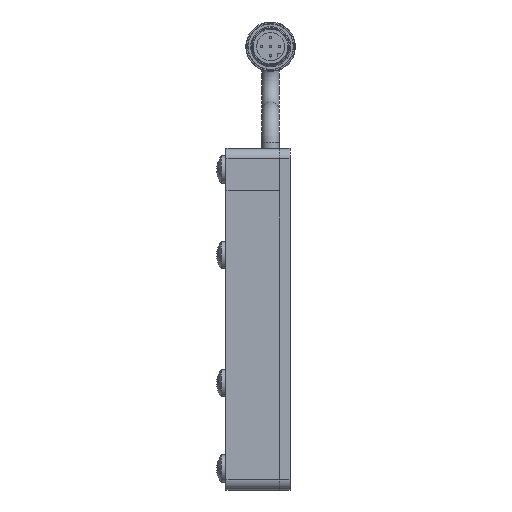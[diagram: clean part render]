
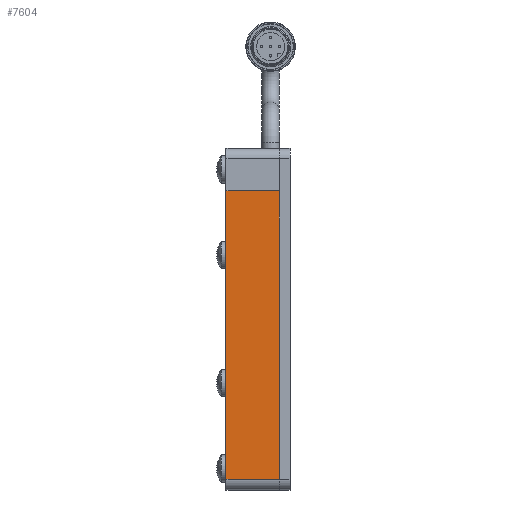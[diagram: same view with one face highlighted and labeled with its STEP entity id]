
A CAD part, left-side view. The second image highlights one B-rep face of the part: STEP entity #7604.
In plain terms, the highlighted planar face has unit normal (-1, 0, 0) as drawn and (0, 0, -1) by its records, which use the part's own axes.
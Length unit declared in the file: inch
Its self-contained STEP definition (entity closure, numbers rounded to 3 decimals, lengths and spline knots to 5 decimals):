
#170 = CARTESIAN_POINT ( 'NONE',  ( -2., -0.3125, -0.25 ) ) ;
#1130 = VERTEX_POINT ( 'NONE', #3402 ) ;
#1168 = EDGE_CURVE ( 'NONE', #6236, #16518, #14719, .T. ) ;
#1616 = CARTESIAN_POINT ( 'NONE',  ( 1.875, -0.3125, -0.25 ) ) ;
#1746 = FACE_OUTER_BOUND ( 'NONE', #11081, .T. ) ;
#2274 = CARTESIAN_POINT ( 'NONE',  ( 1.875, 0.3125, -0.25 ) ) ;
#2414 = CARTESIAN_POINT ( 'NONE',  ( -1.5, -0.3125, -0.25 ) ) ;
#2730 = CARTESIAN_POINT ( 'NONE',  ( -1.5, 0.3125, -0.25 ) ) ;
#2886 = VERTEX_POINT ( 'NONE', #1616 ) ;
#3402 = CARTESIAN_POINT ( 'NONE',  ( 1.875, 0.3125, -0.25 ) ) ;
#3779 = CARTESIAN_POINT ( 'NONE',  ( -1.5, -0.3125, -0.25 ) ) ;
#4270 = DIRECTION ( 'NONE',  ( 1., 0., 0. ) ) ;
#4718 = AXIS2_PLACEMENT_3D ( 'NONE', #7314, #11139, #4270 ) ;
#4814 = ORIENTED_EDGE ( 'NONE', *, *, #1168, .T. ) ;
#6236 = VERTEX_POINT ( 'NONE', #3779 ) ;
#6316 = DIRECTION ( 'NONE',  ( -1., 0., 0. ) ) ;
#6494 = LINE ( 'NONE', #2274, #9455 ) ;
#6638 = DIRECTION ( 'NONE',  ( 0., 1., 0. ) ) ;
#6870 = EDGE_CURVE ( 'NONE', #1130, #2886, #6494, .T. ) ;
#7005 = LINE ( 'NONE', #170, #9374 ) ;
#7314 = CARTESIAN_POINT ( 'NONE',  ( -2., 0.3125, -0.25 ) ) ;
#7604 = ADVANCED_FACE ( 'NONE', ( #1746 ), #8415, .F. ) ;
#7938 = CARTESIAN_POINT ( 'NONE',  ( -2., 0.3125, -0.25 ) ) ;
#8310 = EDGE_CURVE ( 'NONE', #1130, #16518, #15909, .T. ) ;
#8415 = PLANE ( 'NONE',  #4718 ) ;
#8844 = DIRECTION ( 'NONE',  ( 0., -1., 0. ) ) ;
#9374 = VECTOR ( 'NONE', #15254, 39.37008 ) ;
#9455 = VECTOR ( 'NONE', #8844, 39.37008 ) ;
#9833 = ORIENTED_EDGE ( 'NONE', *, *, #8310, .F. ) ;
#11081 = EDGE_LOOP ( 'NONE', ( #9833, #15383, #16152, #4814 ) ) ;
#11085 = EDGE_CURVE ( 'NONE', #2886, #6236, #7005, .T. ) ;
#11139 = DIRECTION ( 'NONE',  ( 0., 0., 1. ) ) ;
#14478 = VECTOR ( 'NONE', #6316, 39.37008 ) ;
#14719 = LINE ( 'NONE', #2414, #15657 ) ;
#15254 = DIRECTION ( 'NONE',  ( -1., 0., 0. ) ) ;
#15383 = ORIENTED_EDGE ( 'NONE', *, *, #6870, .T. ) ;
#15657 = VECTOR ( 'NONE', #6638, 39.37008 ) ;
#15909 = LINE ( 'NONE', #7938, #14478 ) ;
#16152 = ORIENTED_EDGE ( 'NONE', *, *, #11085, .T. ) ;
#16518 = VERTEX_POINT ( 'NONE', #2730 ) ;
